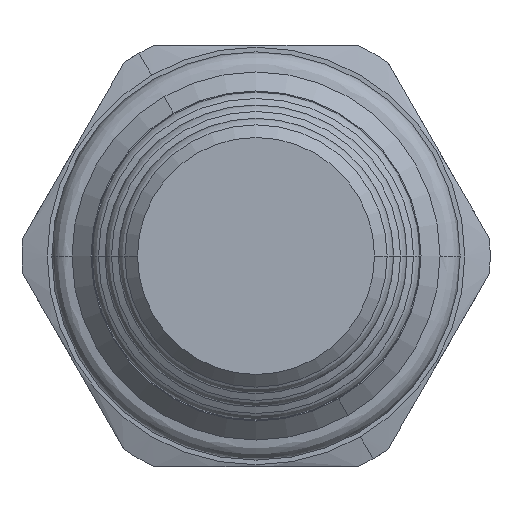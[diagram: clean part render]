
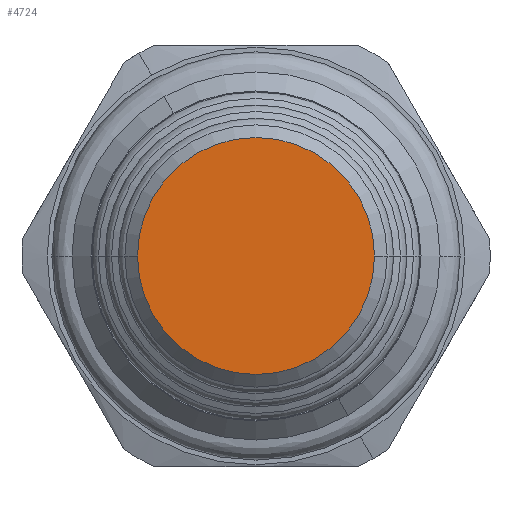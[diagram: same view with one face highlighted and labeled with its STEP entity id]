
A CAD part, front view. The second image highlights one B-rep face of the part: STEP entity #4724.
In plain terms, the highlighted planar face has unit normal (0, -1, 0).
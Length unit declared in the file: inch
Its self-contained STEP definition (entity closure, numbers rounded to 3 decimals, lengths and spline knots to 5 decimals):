
#1530=CARTESIAN_POINT('',(0.,-2.4385,0.));
#1531=DIRECTION('',(0.,1.,0.));
#1532=DIRECTION('',(1.,0.,0.));
#1533=AXIS2_PLACEMENT_3D('',#1530,#1531,#1532);
#1548=CARTESIAN_POINT('',(0.,-2.4385,0.));
#1549=DIRECTION('',(0.,1.,0.));
#1550=DIRECTION('',(-1.,0.,0.));
#1551=AXIS2_PLACEMENT_3D('',#1548,#1549,#1550);
#2357=CARTESIAN_POINT('',(-0.281,-2.4385,0.));
#2358=CARTESIAN_POINT('',(0.281,-2.4385,0.));
#2359=VERTEX_POINT('',#2357);
#2360=VERTEX_POINT('',#2358);
#4714=CARTESIAN_POINT('',(0.,-2.4385,0.));
#4715=DIRECTION('',(0.,1.,0.));
#4716=DIRECTION('',(1.,0.,0.));
#4717=AXIS2_PLACEMENT_3D('',#4714,#4715,#4716);
#4718=PLANE('',#4717);
#4719=ORIENTED_EDGE('',*,*,#4704,.T.);
#4721=ORIENTED_EDGE('',*,*,#4720,.T.);
#4722=EDGE_LOOP('',(#4719,#4721));
#4723=FACE_OUTER_BOUND('',#4722,.F.);
#4724=ADVANCED_FACE('',(#4723),#4718,.F.);
#1534=CIRCLE('',#1533,0.281);
#1552=CIRCLE('',#1551,0.281);
#4704=EDGE_CURVE('',#2360,#2359,#1534,.T.);
#4720=EDGE_CURVE('',#2359,#2360,#1552,.T.);
